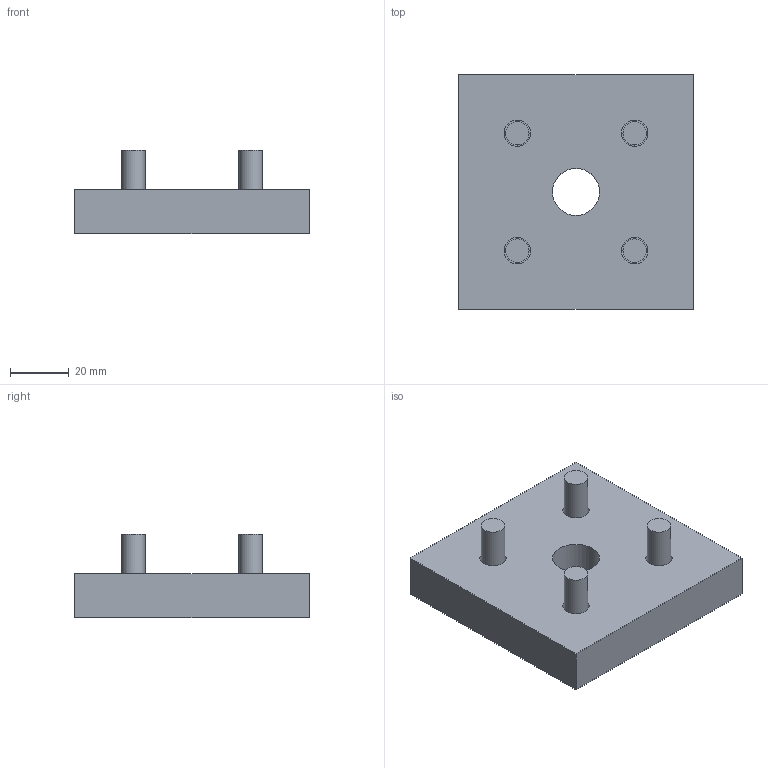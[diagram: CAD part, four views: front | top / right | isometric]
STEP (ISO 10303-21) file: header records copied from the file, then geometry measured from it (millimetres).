
FILE_DESCRIPTION((''),'2;1');
FILE_NAME('C:\Documents and Settings\古川典政\My Documents\Inventor\HP用\MasterData\ACCESSORY\M8\LFA-8080-8.stp','2008-08-05T16:56:10',(''),(''),'Autodesk Inventor 2008','Autodesk Inventor 2008','');
FILE_SCHEMA(('CONFIG_CONTROL_DESIGN'));
Length unit declared in the file: millimetre
Products named in the file (6): LFA-8080-8; LFA-8080-81; LFA-8080-82; LFA-8080-83; LFA-8080-84; LFA-8080-85
Assembly tree (5 placements, depth 2):
  LFA-8080-8
    LFA-8080-81
    LFA-8080-82
    LFA-8080-83
    LFA-8080-84
    LFA-8080-85
Bounding box: 80 x 80 x 28.6 mm (x, y, z)
Volume: 94331.9 mm3; surface area: 24058.4 mm2
Topology: 5 solids, 5 shells, 39 faces, 64 edges, 43 vertices
Faces by surface type: plane 18, bspline 13, cylinder 8
Full cylindrical faces by diameter (mm): 8 x4, 13 x4
Entity records: 1122 total; most frequent: CARTESIAN_POINT 303, DIRECTION 154, ORIENTED_EDGE 92, EDGE_LOOP 74, AXIS2_PLACEMENT_3D 71, EDGE_CURVE 46, VERTEX_POINT 42, FACE_OUTER_BOUND 39
